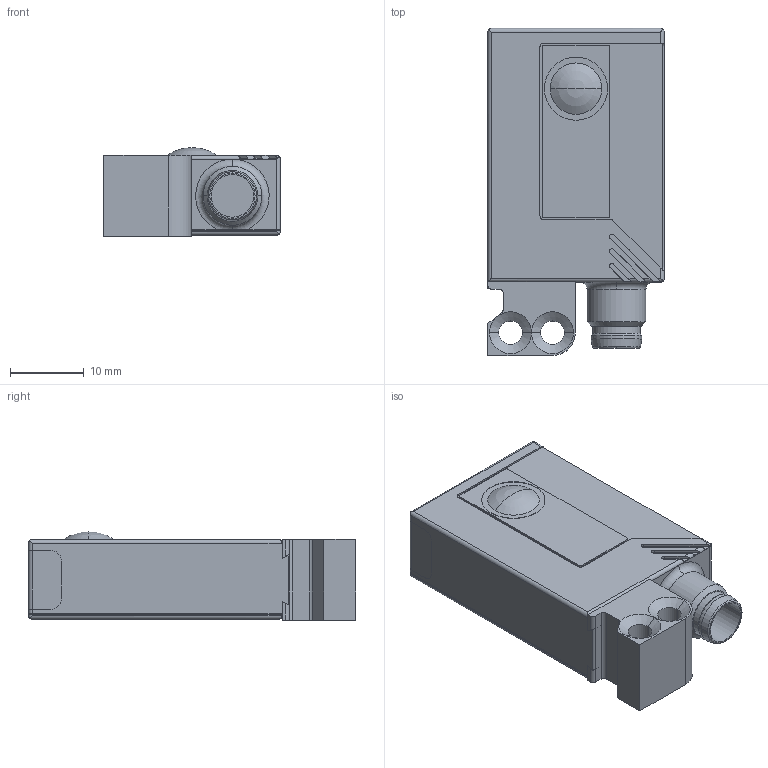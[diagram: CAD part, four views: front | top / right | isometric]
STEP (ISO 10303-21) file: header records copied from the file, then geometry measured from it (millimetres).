
FILE_DESCRIPTION( ( '' ), '1' );
FILE_NAME( '//partserver001.servicenet/client_exchange/iodir/jobs/output/wkb12415836_no0/STEP/oj5085_2_03.stp', '2008-10-07T11:36:33', ( '' ), ( '' ), ' ', ' ', ' ' );
FILE_SCHEMA( ( 'CONFIG_CONTROL_DESIGN' ) );
Length unit declared in the file: millimetre
Products named in the file (2): 1; 2
Bounding box: 24 x 44.5 x 12.05 mm (x, y, z)
Volume: 10103.3 mm3; surface area: 4229.7 mm2
Topology: 2 solids, 2 shells, 153 faces, 404 edges, 260 vertices
Faces by surface type: plane 74, cylinder 55, cone 18, torus 4, sphere 2
Entity records: 4873 total; most frequent: CARTESIAN_POINT 871, DIRECTION 857, ORIENTED_EDGE 804, EDGE_CURVE 402, AXIS2_PLACEMENT_3D 306, VERTEX_POINT 260, LINE 245, VECTOR 245
